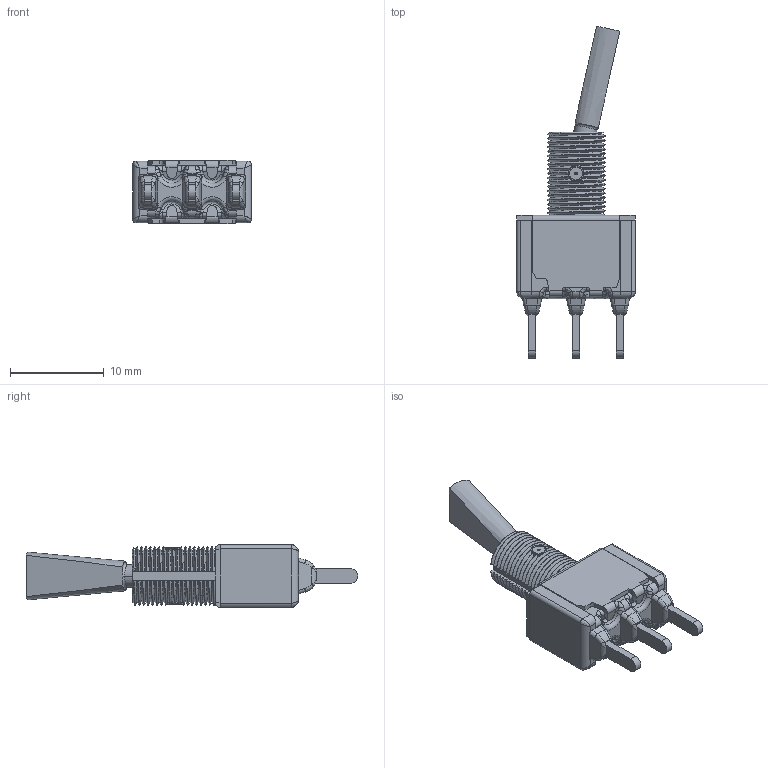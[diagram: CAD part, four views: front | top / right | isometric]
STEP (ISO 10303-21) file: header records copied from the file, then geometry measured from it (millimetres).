
FILE_DESCRIPTION((''),'2;1');
FILE_NAME('710XP3YZ3_SW0001_PRT','2011-10-14T',('jtrepler'),(''),'PRO/ENGINEER BY PARAMETRIC TECHNOLOGY CORPORATION, 2011080','PRO/ENGINEER BY PARAMETRIC TECHNOLOGY CORPORATION, 2011080','');
FILE_SCHEMA(('AUTOMOTIVE_DESIGN_CC2 { 1 2 10303 214 -1 1 5 2 }'));
Length unit declared in the file: inch
Products named in the file (1): 710XP3YZ3_SW0001_PRT
Bounding box: 12.7 x 35.46 x 6.76 mm (x, y, z)
Volume: 709.6 mm3; surface area: 2040.1 mm2
Topology: 2 solids, 2 shells, 821 faces, 2458 edges, 1555 vertices
Faces by surface type: plane 341, cylinder 236, bspline 184, cone 52, torus 8
Entity records: 43075 total; most frequent: CARTESIAN_POINT 22878, ORIENTED_EDGE 4904, DIRECTION 3267, EDGE_CURVE 2452, VERTEX_POINT 1555, VECTOR 1241, LINE 1241, AXIS2_PLACEMENT_3D 1013
